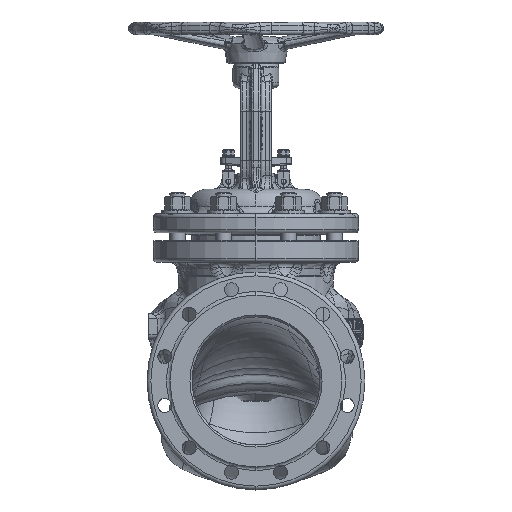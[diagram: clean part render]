
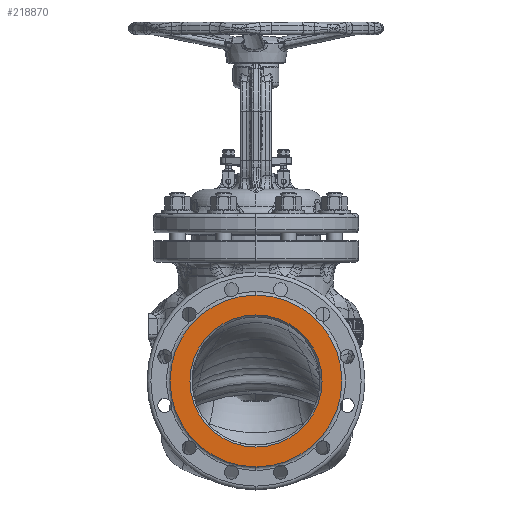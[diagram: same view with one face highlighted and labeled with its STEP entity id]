
A CAD part, left-side view. The second image highlights one B-rep face of the part: STEP entity #218870.
In plain terms, the highlighted planar face has unit normal (-1, 0, 0).
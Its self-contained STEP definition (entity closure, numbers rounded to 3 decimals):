
#38815=CARTESIAN_POINT('',(-300.,0.,0.));
#38816=DIRECTION('',(-1.,0.,0.));
#38817=DIRECTION('',(0.,0.,1.));
#38818=AXIS2_PLACEMENT_3D('',#38815,#38816,#38817);
#38820=CARTESIAN_POINT('',(-300.,0.,0.));
#38821=DIRECTION('',(-1.,0.,0.));
#38822=DIRECTION('',(0.,0.,-1.));
#38823=AXIS2_PLACEMENT_3D('',#38820,#38821,#38822);
#39123=CARTESIAN_POINT('',(-300.,0.,0.));
#39124=DIRECTION('',(-1.,0.,0.));
#39125=DIRECTION('',(0.,0.,1.));
#39126=AXIS2_PLACEMENT_3D('',#39123,#39124,#39125);
#62032=CARTESIAN_POINT('',(-300.,0.,0.));
#62033=DIRECTION('',(-1.,0.,0.));
#62034=DIRECTION('',(0.,0.,-1.));
#62035=AXIS2_PLACEMENT_3D('',#62032,#62033,#62034);
#90110=CARTESIAN_POINT('',(-300.,0.,134.));
#90111=CARTESIAN_POINT('',(-300.,0.,-134.));
#90112=VERTEX_POINT('',#90110);
#90113=VERTEX_POINT('',#90111);
#90122=CARTESIAN_POINT('',(-300.,0.,103.));
#90123=CARTESIAN_POINT('',(-300.,0.,-103.));
#90124=VERTEX_POINT('',#90122);
#90125=VERTEX_POINT('',#90123);
#218854=CARTESIAN_POINT('',(-300.,0.,0.));
#218855=DIRECTION('',(-1.,0.,0.));
#218856=DIRECTION('',(0.,0.,1.));
#218857=AXIS2_PLACEMENT_3D('',#218854,#218855,#218856);
#218858=PLANE('',#218857);
#218860=ORIENTED_EDGE('',*,*,#218859,.F.);
#218862=ORIENTED_EDGE('',*,*,#218861,.F.);
#218863=EDGE_LOOP('',(#218860,#218862));
#218864=FACE_OUTER_BOUND('',#218863,.F.);
#218865=ORIENTED_EDGE('',*,*,#218840,.T.);
#218867=ORIENTED_EDGE('',*,*,#218866,.T.);
#218868=EDGE_LOOP('',(#218865,#218867));
#218869=FACE_BOUND('',#218868,.F.);
#218870=ADVANCED_FACE('',(#218864,#218869),#218858,.T.);
#38819=CIRCLE('',#38818,103.);
#38824=CIRCLE('',#38823,103.);
#39127=CIRCLE('',#39126,134.);
#62036=CIRCLE('',#62035,134.);
#218840=EDGE_CURVE('',#90124,#90125,#38819,.T.);
#218859=EDGE_CURVE('',#90112,#90113,#39127,.T.);
#218861=EDGE_CURVE('',#90113,#90112,#62036,.T.);
#218866=EDGE_CURVE('',#90125,#90124,#38824,.T.);
